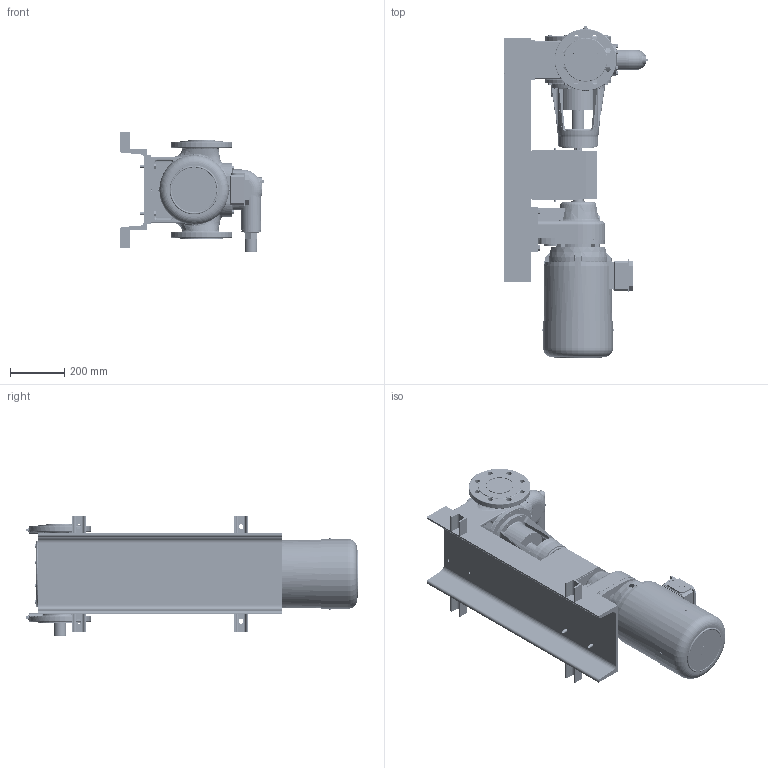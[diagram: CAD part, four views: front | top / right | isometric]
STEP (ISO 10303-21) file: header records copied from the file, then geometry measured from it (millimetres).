
FILE_DESCRIPTION((''),'2;1');
FILE_NAME('HD101EFM_ASM','2019-04-26T',('erya'),(''),'PRO/ENGINEER BY PARAMETRIC TECHNOLOGY CORPORATION, 2017170','PRO/ENGINEER BY PARAMETRIC TECHNOLOGY CORPORATION, 2017170','');
FILE_SCHEMA(('CONFIG_CONTROL_DESIGN'));
Products named in the file (37): 1101-001BA225; 1101-002BA342; 1101-003EB225; 1101-021DB017; 0010-100CA342; 0012-110ZA030; 1101-020BA050; 0012-080YB020; 0012-080YA020; 700305; 704059; 3001-010GA081; 1101-051AA220; 0030-060DA904; 0049-072AA050; 760279; 0037-046AA020; 8311_BYPASS_HD81_101_ASM; BSESPLATE300_AF0; K_AF0; BASEPLATE50_AF0; BASEPLATE50_AF1; BASEPLATE50_AF2; BASEPLATE50_AF3; KA127540_ASM; _SK33-132SH; GUARD-1; GUARD-2; 711153; 2348543; 715568; GUARD_ASM; 706288; 700318; 704287; 700320; HD101EFM_ASM
Assembly tree (94 placements, depth 3):
  HD101EFM_ASM
    1101-001BA225
    1101-002BA342
    1101-003EB225
    1101-021DB017
    0010-100CA342
    0012-110ZA030
    1101-020BA050
    0012-080YB020
    0012-080YA020
    700305  x34
    704059  x2
    3001-010GA081  x2
    8311_BYPASS_HD81_101_ASM
      1101-051AA220
      0030-060DA904
      0049-072AA050
      760279
      0037-046AA020
      704059
    KA127540_ASM
      BSESPLATE300_AF0
      K_AF0
      BASEPLATE50_AF0
      BASEPLATE50_AF1
      BASEPLATE50_AF2
      BASEPLATE50_AF3
    _SK33-132SH
    GUARD_ASM
      GUARD-1
      GUARD-2  x2
      711153  x4
      2348543  x4
      715568  x4
    706288  x4
    700318  x4
    704287  x4
    700320  x4
Bounding box: 534.5 x 1227.49 x 445.5 mm (x, y, z)
Volume: 23560157.1 mm3; surface area: 3785987.6 mm2
Topology: 105 solids, 183 shells, 4430 faces, 10915 edges, 6841 vertices
Faces by surface type: plane 1905, cylinder 1168, cone 754, bspline 384, torus 213, sphere 6
Entity records: 153760 total; most frequent: CARTESIAN_POINT 71168, ORIENTED_EDGE 16992, DIRECTION 16634, EDGE_CURVE 8697, AXIS2_PLACEMENT_3D 6018, VERTEX_POINT 5565, VECTOR 4598, LINE 4598
